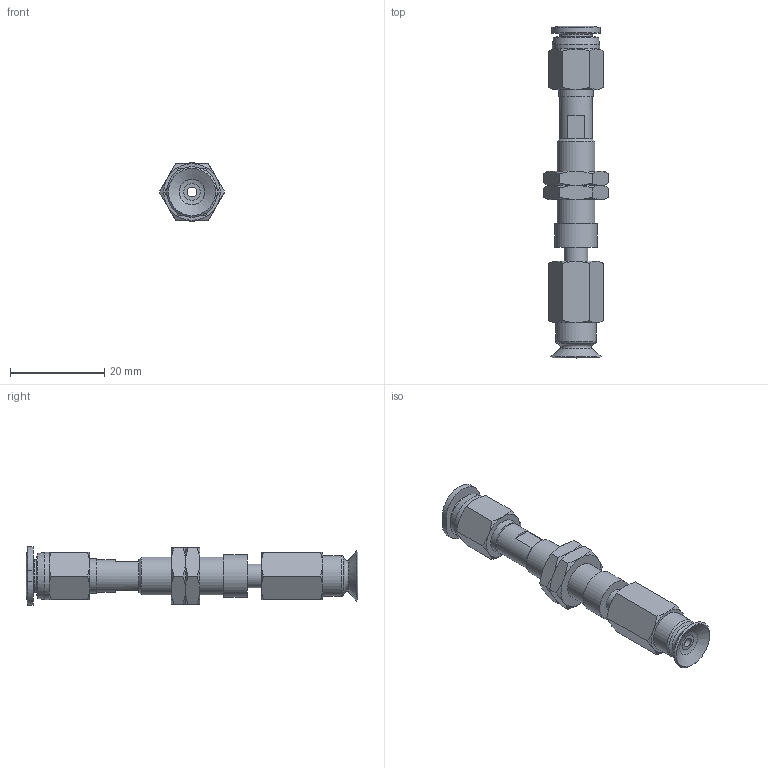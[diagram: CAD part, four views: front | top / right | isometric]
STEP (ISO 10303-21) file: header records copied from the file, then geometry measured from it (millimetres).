
FILE_DESCRIPTION(('STEP AP203'),'1');
FILE_NAME('-O.stp','2025-08-27T05:44:29',(' '),(' '),'Spatial InterOp 3D',' ',' ');
FILE_SCHEMA(('CONFIG_CONTROL_DESIGN'));
Length unit declared in the file: millimetre
Products named in the file (7): BNABPFTS-10A-3-※-O; ADAPTER; NAPATS-10A-3--M; Nut-10A-3-s; NAPFTS-10A-3-FBODY; BPFG-10A-※; PC-C_06-M5
Assembly tree (7 placements, depth 2):
  BNABPFTS-10A-3-※-O
    ADAPTER
    NAPATS-10A-3--M
    Nut-10A-3-s  x2
    NAPFTS-10A-3-FBODY
    BPFG-10A-※
    PC-C_06-M5
Bounding box: 13.86 x 70.48 x 12.4 mm (x, y, z)
Volume: 3377.1 mm3; surface area: 5022.2 mm2
Topology: 6 solids, 9 shells, 164 faces, 336 edges, 203 vertices
Faces by surface type: cone 62, plane 59, cylinder 25, torus 10, bspline 5, revolution 3
Full cylindrical faces by diameter (mm): 2 x3, 4 x4, 4.134 x1, 5 x3, 6 x2, 7 x2, 7.188 x2, 7.4 x1, 8 x1, 8.2 x1, 8.7 x1, 9 x1, 10 x1
Entity records: 4179 total; most frequent: CARTESIAN_POINT 1209, DIRECTION 549, ORIENTED_EDGE 458, AXIS2_PLACEMENT_3D 253, EDGE_CURVE 231, EDGE_LOOP 214, VERTEX_POINT 165, FACE_OUTER_BOUND 114
